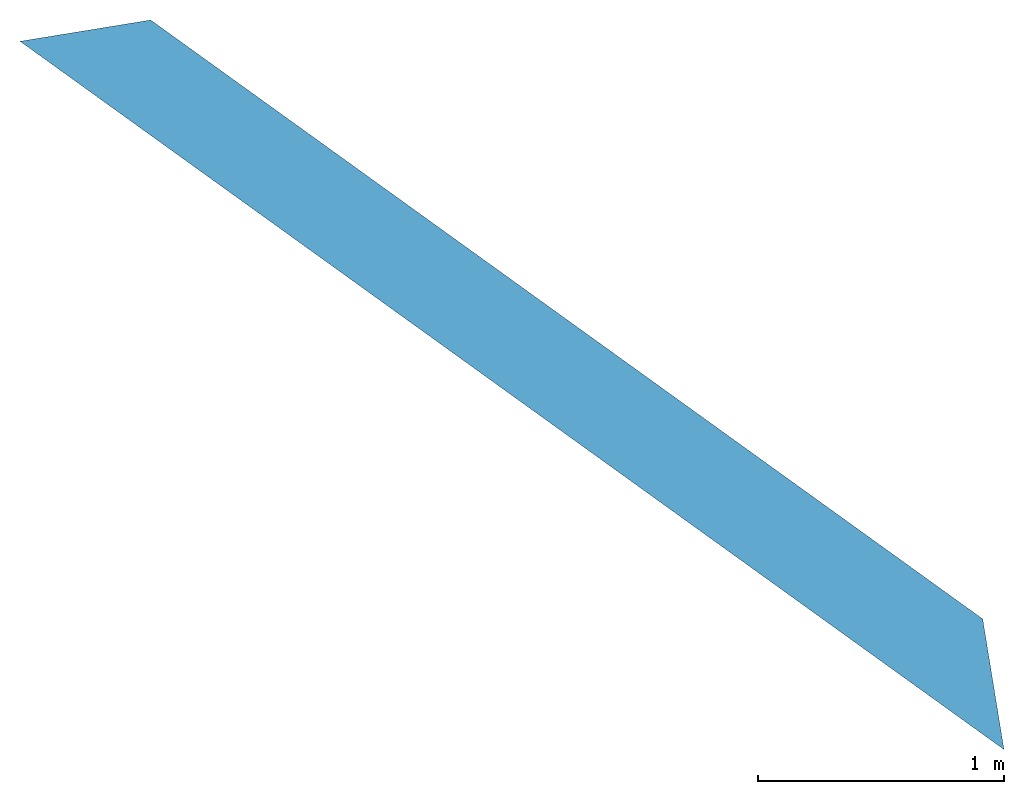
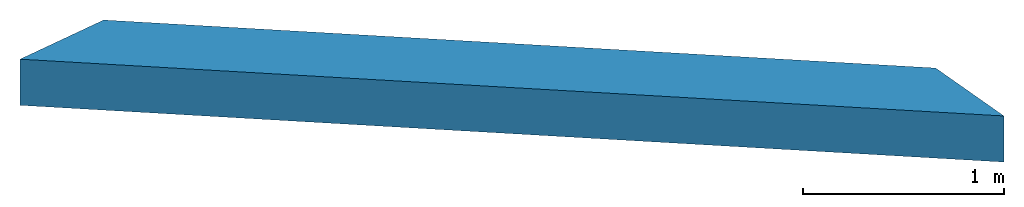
# One storey: 1 wall.
"""IFC2X3 building model written with IfcOpenShell, lengths in millimetres."""

from ifc_helpers import new_model, entity, si_unit, converted_unit, derived_unit, direction, frame, origin, origin_with_axes, place, context, subcontext, project, spatial, faceted_brep, material, layer, layer_set, type_object, element, save


model = new_model("IFC2X3")

# Units and contexts
model_context = context("Model", 3, precision=0.01, world=origin(), true_north=direction((6.12323399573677e-17, 1.0)))
plan_context = context("Plan", 3, precision=1e-05, world=origin_with_axes())
body_context = subcontext(model_context, "Body", "Model", "MODEL_VIEW")
ifc_project = project(units=[converted_unit("PLANEANGLEUNIT", "DEGREE", entity("IfcPositiveLengthMeasure", 0.0174532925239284), si_unit("PLANEANGLEUNIT", "RADIAN"), dimensions=[0, 0, 0, 0, 0, 0, 0]), si_unit("AREAUNIT", "SQUARE_METRE"), si_unit("LENGTHUNIT", "METRE", prefix="MILLI"), si_unit("MASSUNIT", "GRAM", prefix="KILO"), si_unit("POWERUNIT", "WATT"), si_unit("PRESSUREUNIT", "PASCAL", prefix="KILO"), si_unit("FORCEUNIT", "NEWTON", prefix="KILO"), si_unit("ELECTRICVOLTAGEUNIT", "VOLT"), si_unit("ELECTRICCURRENTUNIT", "AMPERE"), si_unit("THERMODYNAMICTEMPERATUREUNIT", "DEGREE_CELSIUS"), si_unit("TIMEUNIT", "SECOND"), si_unit("VOLUMEUNIT", "CUBIC_METRE"), derived_unit("LINEARVELOCITYUNIT", [(si_unit("LENGTHUNIT", "METRE"), 1), (si_unit("TIMEUNIT", "SECOND"), -1)]), derived_unit("VOLUMETRICFLOWRATEUNIT", [(si_unit("VOLUMEUNIT", "CUBIC_METRE"), 1), (si_unit("TIMEUNIT", "SECOND"), -1)]), derived_unit("THERMALTRANSMITTANCEUNIT", [(si_unit("POWERUNIT", "WATT"), 1), (si_unit("THERMODYNAMICTEMPERATUREUNIT", "KELVIN"), -1), (si_unit("AREAUNIT", "SQUARE_METRE"), -1)]), derived_unit("SOUNDPRESSUREUNIT", [(si_unit("PRESSUREUNIT", "PASCAL"), 1)])], contexts=[model_context, plan_context])

# Site, building, storey
site_placement = place(None, frame((-305029.896016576, -232111.759730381, 0.0), z_axis=(0.0, 0.0, 1.0), x_axis=(-0.160806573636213, 0.986985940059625, 0.0)))
site = spatial("IfcSite", under=ifc_project, at=site_placement, Name="Default", CompositionType="ELEMENT")
building_placement = place(site_placement, frame((0.0, 0.0, 0.0), z_axis=(0.0, 0.0, 1.0), x_axis=(1.0, -2.77555756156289e-17, 0.0)))
building = spatial("IfcBuilding", under=site, at=building_placement, Name="br001-a-200-1-0001", CompositionType="ELEMENT")
storey_placement = place(building_placement, frame((0.0, 0.0, 59000.0), z_axis=(0.0, 0.0, 1.0), x_axis=(1.0, -2.77555756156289e-17, 0.0)))
storey = spatial("IfcBuildingStorey", under=building, at=storey_placement, Name="H03-Nivå G-5m", CompositionType="ELEMENT", Elevation=59000.0)

# Wall
ifc_material_1 = material(Name="Flesland - Finishes - Exterior - Metal Panel")
ifc_layer_1 = layer(ifc_material_1, 20.0)
ifc_material_2 = material(Name="<Unnamed>")
ifc_layer_2 = layer(ifc_material_2, 20.0)
ifc_material_3 = material(Name="A200 - Isolasjon - Trykkfast m skravur i snitt")
ifc_layer_3 = layer(ifc_material_3, 340.0)
ifc_layer_set = layer_set([ifc_layer_1, ifc_layer_2, ifc_layer_3], Name="Basic Wall:NSW Utvendig - Standard 380 Panels")
wall_type = type_object("IfcWallType", Name="Basic Wall:NSW Utvendig - Standard 380 Panels", PredefinedType="STANDARD", material=ifc_layer_set)
wall_placement = place(storey_placement, frame((1173050.24829599, -755381.547699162, 0.0), z_axis=(0.0, 0.0, 1.0), x_axis=(0.707106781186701, 0.707106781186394, 0.0)))
element("IfcWall", 1, at=wall_placement, inside=storey, type_object=wall_type, Name="Basic Wall:NSW Utvendig - Standard 380 Panels", ObjectType="Basic Wall:NSW Utvendig - Standard 380 Panels", context=body_context, shape_type="Brep", body=[
    faceted_brep([(29064.2078797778, -189.999999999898, 0.0), (29064.2078797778, -189.999999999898, 279.999999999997), (33225.5334343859, -189.999999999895, 279.999999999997), (33225.5334343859, -189.999999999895, 0.0), (33605.5334343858, 190.000000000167, 0.0), (33605.5334343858, 190.000000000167, 279.999999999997), (28684.2078797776, 190.000000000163, 279.999999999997), (28684.2078797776, 190.000000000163, 0.0)], [[[0, 1, 2, 3]], [[4, 5, 6, 7]], [[3, 4, 7, 0]], [[1, 6, 5, 2]], [[5, 4, 3, 2]], [[7, 6, 1, 0]]], orient=[[False], [False], [False], [False], [False], [False]]),
])

save(model, "model.ifc")
